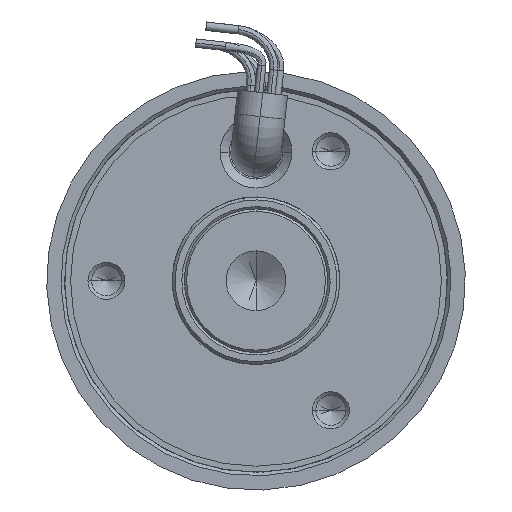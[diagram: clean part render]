
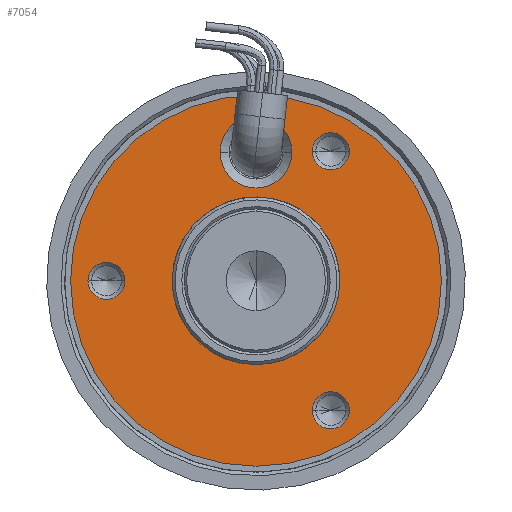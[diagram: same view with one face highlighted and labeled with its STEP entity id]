
A CAD part, front view. The second image highlights one B-rep face of the part: STEP entity #7054.
In plain terms, the highlighted planar face has unit normal (0, -1, 0).
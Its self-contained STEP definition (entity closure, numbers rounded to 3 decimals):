
#73 = DIRECTION ( 'NONE',  ( 0., 1., 0. ) ) ;
#236 = CIRCLE ( 'NONE', #10133, 7. ) ;
#245 = EDGE_CURVE ( 'NONE', #2152, #1761, #5411, .T. ) ;
#264 = ORIENTED_EDGE ( 'NONE', *, *, #1545, .F. ) ;
#368 = CARTESIAN_POINT ( 'NONE',  ( 0., 0., 15.5 ) ) ;
#378 = VERTEX_POINT ( 'NONE', #7676 ) ;
#493 = AXIS2_PLACEMENT_3D ( 'NONE', #2474, #73, #873 ) ;
#638 = VERTEX_POINT ( 'NONE', #1969 ) ;
#656 = VERTEX_POINT ( 'NONE', #368 ) ;
#659 = EDGE_CURVE ( 'NONE', #656, #378, #9127, .T. ) ;
#749 = DIRECTION ( 'NONE',  ( 0., -1., 0. ) ) ;
#756 = ORIENTED_EDGE ( 'NONE', *, *, #4265, .F. ) ;
#761 = CARTESIAN_POINT ( 'NONE',  ( 0., 0., 0. ) ) ;
#782 = CARTESIAN_POINT ( 'NONE',  ( -10.75, 0., 0. ) ) ;
#873 = DIRECTION ( 'NONE',  ( 0., 0., 1. ) ) ;
#949 = CIRCLE ( 'NONE', #2284, 1.55 ) ;
#967 = ORIENTED_EDGE ( 'NONE', *, *, #659, .T. ) ;
#990 = CIRCLE ( 'NONE', #3211, 7. ) ;
#1016 = EDGE_LOOP ( 'NONE', ( #1450, #967 ) ) ;
#1119 = DIRECTION ( 'NONE',  ( 0., 0., -1. ) ) ;
#1122 = DIRECTION ( 'NONE',  ( 0., -1., 0. ) ) ;
#1175 = EDGE_CURVE ( 'NONE', #4966, #7840, #949, .T. ) ;
#1288 = CARTESIAN_POINT ( 'NONE',  ( 0., 0., -7. ) ) ;
#1290 = CARTESIAN_POINT ( 'NONE',  ( -10.75, 0., 3. ) ) ;
#1378 = EDGE_LOOP ( 'NONE', ( #2205, #756 ) ) ;
#1450 = ORIENTED_EDGE ( 'NONE', *, *, #4415, .T. ) ;
#1545 = EDGE_CURVE ( 'NONE', #5923, #638, #990, .T. ) ;
#1676 = CARTESIAN_POINT ( 'NONE',  ( 10.825, 0., 7.8 ) ) ;
#1691 = DIRECTION ( 'NONE',  ( 0., 0., -1. ) ) ;
#1761 = VERTEX_POINT ( 'NONE', #9159 ) ;
#1793 = EDGE_CURVE ( 'NONE', #4144, #4102, #3874, .T. ) ;
#1949 = DIRECTION ( 'NONE',  ( 0., -1., 0. ) ) ;
#1969 = CARTESIAN_POINT ( 'NONE',  ( 0., 0., 7. ) ) ;
#2088 = DIRECTION ( 'NONE',  ( 0., 0., -1. ) ) ;
#2152 = VERTEX_POINT ( 'NONE', #1290 ) ;
#2205 = ORIENTED_EDGE ( 'NONE', *, *, #1793, .F. ) ;
#2207 = AXIS2_PLACEMENT_3D ( 'NONE', #9234, #6071, #5102 ) ;
#2225 = EDGE_LOOP ( 'NONE', ( #6173, #7097 ) ) ;
#2275 = DIRECTION ( 'NONE',  ( 0., 0., -1. ) ) ;
#2284 = AXIS2_PLACEMENT_3D ( 'NONE', #6914, #8520, #2088 ) ;
#2474 = CARTESIAN_POINT ( 'NONE',  ( 0., 0., 0. ) ) ;
#2659 = DIRECTION ( 'NONE',  ( 0., -1., 0. ) ) ;
#2990 = VERTEX_POINT ( 'NONE', #6429 ) ;
#3112 = ORIENTED_EDGE ( 'NONE', *, *, #1175, .F. ) ;
#3192 = AXIS2_PLACEMENT_3D ( 'NONE', #7536, #1122, #9828 ) ;
#3211 = AXIS2_PLACEMENT_3D ( 'NONE', #8733, #4027, #1691 ) ;
#3293 = AXIS2_PLACEMENT_3D ( 'NONE', #7173, #8239, #9882 ) ;
#3363 = EDGE_LOOP ( 'NONE', ( #6300, #4001 ) ) ;
#3589 = EDGE_CURVE ( 'NONE', #7543, #2990, #7329, .T. ) ;
#3602 = CARTESIAN_POINT ( 'NONE',  ( 0., 0., -12.5 ) ) ;
#3874 = CIRCLE ( 'NONE', #9043, 1.55 ) ;
#3958 = FACE_BOUND ( 'NONE', #1378, .T. ) ;
#4001 = ORIENTED_EDGE ( 'NONE', *, *, #9564, .F. ) ;
#4027 = DIRECTION ( 'NONE',  ( 0., -1., 0. ) ) ;
#4030 = CARTESIAN_POINT ( 'NONE',  ( 0., 0., -10.95 ) ) ;
#4102 = VERTEX_POINT ( 'NONE', #4030 ) ;
#4144 = VERTEX_POINT ( 'NONE', #6680 ) ;
#4178 = ORIENTED_EDGE ( 'NONE', *, *, #9222, .F. ) ;
#4265 = EDGE_CURVE ( 'NONE', #4102, #4144, #4329, .T. ) ;
#4329 = CIRCLE ( 'NONE', #2207, 1.55 ) ;
#4335 = AXIS2_PLACEMENT_3D ( 'NONE', #761, #7829, #7872 ) ;
#4415 = EDGE_CURVE ( 'NONE', #378, #656, #5068, .T. ) ;
#4543 = CIRCLE ( 'NONE', #7161, 3. ) ;
#4966 = VERTEX_POINT ( 'NONE', #1676 ) ;
#4971 = CARTESIAN_POINT ( 'NONE',  ( -10.825, 0., 4.7 ) ) ;
#4974 = CIRCLE ( 'NONE', #9200, 1.55 ) ;
#5016 = DIRECTION ( 'NONE',  ( 0., 0., -1. ) ) ;
#5068 = CIRCLE ( 'NONE', #4335, 15.5 ) ;
#5102 = DIRECTION ( 'NONE',  ( 0., 0., -1. ) ) ;
#5343 = FACE_BOUND ( 'NONE', #2225, .T. ) ;
#5411 = CIRCLE ( 'NONE', #9216, 3. ) ;
#5668 = PLANE ( 'NONE',  #493 ) ;
#5726 = FACE_BOUND ( 'NONE', #7910, .T. ) ;
#5851 = CARTESIAN_POINT ( 'NONE',  ( -10.825, 0., 6.25 ) ) ;
#5923 = VERTEX_POINT ( 'NONE', #1288 ) ;
#5951 = EDGE_CURVE ( 'NONE', #1761, #2152, #4543, .T. ) ;
#6071 = DIRECTION ( 'NONE',  ( 0., -1., 0. ) ) ;
#6107 = FACE_BOUND ( 'NONE', #7017, .T. ) ;
#6173 = ORIENTED_EDGE ( 'NONE', *, *, #5951, .F. ) ;
#6300 = ORIENTED_EDGE ( 'NONE', *, *, #3589, .F. ) ;
#6429 = CARTESIAN_POINT ( 'NONE',  ( -10.825, 0., 7.8 ) ) ;
#6680 = CARTESIAN_POINT ( 'NONE',  ( 0., 0., -14.05 ) ) ;
#6730 = CARTESIAN_POINT ( 'NONE',  ( -10.825, 0., 6.25 ) ) ;
#6807 = CIRCLE ( 'NONE', #3293, 1.55 ) ;
#6914 = CARTESIAN_POINT ( 'NONE',  ( 10.825, 0., 6.25 ) ) ;
#7017 = EDGE_LOOP ( 'NONE', ( #264, #4178 ) ) ;
#7054 = ADVANCED_FACE ( 'NONE', ( #7334, #5726, #3958, #5343, #6107, #7704 ), #5668, .F. ) ;
#7097 = ORIENTED_EDGE ( 'NONE', *, *, #245, .F. ) ;
#7161 = AXIS2_PLACEMENT_3D ( 'NONE', #782, #1949, #2275 ) ;
#7173 = CARTESIAN_POINT ( 'NONE',  ( 10.825, 0., 6.25 ) ) ;
#7281 = DIRECTION ( 'NONE',  ( 0., -1., 0. ) ) ;
#7329 = CIRCLE ( 'NONE', #8298, 1.55 ) ;
#7334 = FACE_BOUND ( 'NONE', #3363, .T. ) ;
#7532 = CARTESIAN_POINT ( 'NONE',  ( -10.75, 0., 0. ) ) ;
#7536 = CARTESIAN_POINT ( 'NONE',  ( 0., 0., 0. ) ) ;
#7543 = VERTEX_POINT ( 'NONE', #4971 ) ;
#7676 = CARTESIAN_POINT ( 'NONE',  ( 0., 0., -15.5 ) ) ;
#7704 = FACE_OUTER_BOUND ( 'NONE', #1016, .T. ) ;
#7829 = DIRECTION ( 'NONE',  ( 0., -1., 0. ) ) ;
#7840 = VERTEX_POINT ( 'NONE', #8767 ) ;
#7872 = DIRECTION ( 'NONE',  ( 0., 0., -1. ) ) ;
#7910 = EDGE_LOOP ( 'NONE', ( #8927, #3112 ) ) ;
#8143 = EDGE_CURVE ( 'NONE', #7840, #4966, #6807, .T. ) ;
#8154 = DIRECTION ( 'NONE',  ( 0., 0., -1. ) ) ;
#8239 = DIRECTION ( 'NONE',  ( 0., -1., 0. ) ) ;
#8298 = AXIS2_PLACEMENT_3D ( 'NONE', #5851, #7281, #8154 ) ;
#8449 = DIRECTION ( 'NONE',  ( 0., 0., -1. ) ) ;
#8520 = DIRECTION ( 'NONE',  ( 0., -1., 0. ) ) ;
#8733 = CARTESIAN_POINT ( 'NONE',  ( 0., 0., 0. ) ) ;
#8767 = CARTESIAN_POINT ( 'NONE',  ( 10.825, 0., 4.7 ) ) ;
#8811 = CARTESIAN_POINT ( 'NONE',  ( 0., 0., 0. ) ) ;
#8927 = ORIENTED_EDGE ( 'NONE', *, *, #8143, .F. ) ;
#9043 = AXIS2_PLACEMENT_3D ( 'NONE', #3602, #2659, #1119 ) ;
#9112 = DIRECTION ( 'NONE',  ( 0., -1., 0. ) ) ;
#9123 = DIRECTION ( 'NONE',  ( 0., -1., 0. ) ) ;
#9127 = CIRCLE ( 'NONE', #3192, 15.5 ) ;
#9159 = CARTESIAN_POINT ( 'NONE',  ( -10.75, 0., -3. ) ) ;
#9200 = AXIS2_PLACEMENT_3D ( 'NONE', #6730, #9112, #5016 ) ;
#9216 = AXIS2_PLACEMENT_3D ( 'NONE', #7532, #9123, #8449 ) ;
#9222 = EDGE_CURVE ( 'NONE', #638, #5923, #236, .T. ) ;
#9234 = CARTESIAN_POINT ( 'NONE',  ( 0., 0., -12.5 ) ) ;
#9564 = EDGE_CURVE ( 'NONE', #2990, #7543, #4974, .T. ) ;
#9656 = DIRECTION ( 'NONE',  ( 0., 0., -1. ) ) ;
#9828 = DIRECTION ( 'NONE',  ( 0., 0., -1. ) ) ;
#9882 = DIRECTION ( 'NONE',  ( 0., 0., -1. ) ) ;
#10133 = AXIS2_PLACEMENT_3D ( 'NONE', #8811, #749, #9656 ) ;
